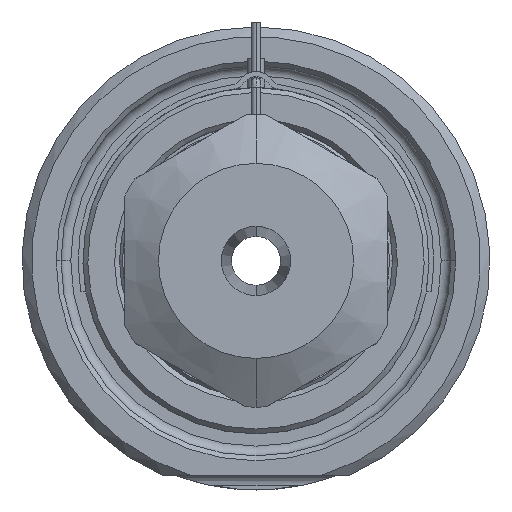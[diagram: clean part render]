
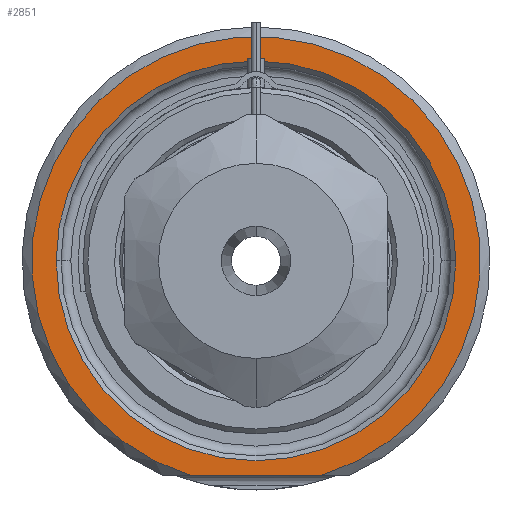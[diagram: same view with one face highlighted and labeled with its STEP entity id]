
A CAD part, front view. The second image highlights one B-rep face of the part: STEP entity #2851.
In plain terms, the highlighted planar face has unit normal (0, -1, 0).
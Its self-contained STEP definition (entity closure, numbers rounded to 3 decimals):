
#1=DIRECTION('',(1.,0.,0.));
#2=VECTOR('',#1,13.416);
#3=CARTESIAN_POINT('',(-6.708,0.,-22.));
#4=LINE('',#3,#2);
#5=CARTESIAN_POINT('',(0.,0.,0.));
#6=DIRECTION('',(0.,1.,0.));
#7=DIRECTION('',(-1.,0.,0.));
#8=AXIS2_PLACEMENT_3D('',#5,#6,#7);
#10=CARTESIAN_POINT('',(0.,0.,0.));
#11=DIRECTION('',(0.,1.,0.));
#12=DIRECTION('',(1.,0.,0.));
#13=AXIS2_PLACEMENT_3D('',#10,#11,#12);
#121=CARTESIAN_POINT('',(0.,0.,0.));
#122=DIRECTION('',(0.,-1.,0.));
#123=DIRECTION('',(0.292,0.,-0.957));
#124=AXIS2_PLACEMENT_3D('',#121,#122,#123);
#2365=CARTESIAN_POINT('',(-20.5,0.,0.));
#2366=CARTESIAN_POINT('',(20.5,0.,0.));
#2367=VERTEX_POINT('',#2365);
#2368=VERTEX_POINT('',#2366);
#2405=CARTESIAN_POINT('',(-6.708,0.,-22.));
#2406=CARTESIAN_POINT('',(6.708,0.,-22.));
#2407=VERTEX_POINT('',#2405);
#2408=VERTEX_POINT('',#2406);
#2834=CARTESIAN_POINT('',(0.,0.,0.));
#2835=DIRECTION('',(0.,-1.,0.));
#2836=DIRECTION('',(1.,0.,0.));
#2837=AXIS2_PLACEMENT_3D('',#2834,#2835,#2836);
#2838=PLANE('',#2837);
#2840=ORIENTED_EDGE('',*,*,#2839,.F.);
#2842=ORIENTED_EDGE('',*,*,#2841,.F.);
#2843=EDGE_LOOP('',(#2840,#2842));
#2844=FACE_OUTER_BOUND('',#2843,.F.);
#2846=ORIENTED_EDGE('',*,*,#2845,.F.);
#2848=ORIENTED_EDGE('',*,*,#2847,.F.);
#2849=EDGE_LOOP('',(#2846,#2848));
#2850=FACE_BOUND('',#2849,.F.);
#2851=ADVANCED_FACE('',(#2844,#2850),#2838,.T.);
#9=CIRCLE('',#8,20.5);
#14=CIRCLE('',#13,20.5);
#125=CIRCLE('',#124,23.);
#2839=EDGE_CURVE('',#2407,#2408,#4,.T.);
#2841=EDGE_CURVE('',#2408,#2407,#125,.T.);
#2845=EDGE_CURVE('',#2367,#2368,#9,.T.);
#2847=EDGE_CURVE('',#2368,#2367,#14,.T.);
